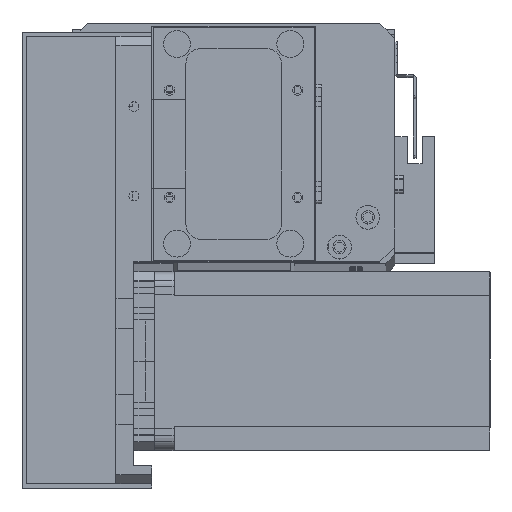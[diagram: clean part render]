
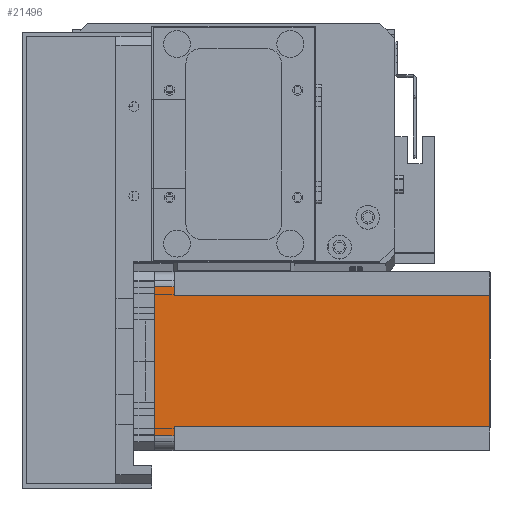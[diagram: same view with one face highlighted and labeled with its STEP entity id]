
A CAD part, top view. The second image highlights one B-rep face of the part: STEP entity #21496.
In plain terms, the highlighted planar face has unit normal (0, 0, 1) as drawn and (0, 1, 0) by its records, which use the part's own axes.
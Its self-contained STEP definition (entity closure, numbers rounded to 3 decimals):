
#429 = CARTESIAN_POINT ( 'NONE',  ( 0., 60., 0. ) ) ;
#657 = VERTEX_POINT ( 'NONE', #27816 ) ;
#697 = EDGE_CURVE ( 'NONE', #657, #31399, #29039, .T. ) ;
#1153 = EDGE_LOOP ( 'NONE', ( #2648, #1797, #27121, #4255, #14276, #13789, #11095, #31699 ) ) ;
#1797 = ORIENTED_EDGE ( 'NONE', *, *, #20798, .T. ) ;
#1852 = VECTOR ( 'NONE', #28071, 1000. ) ;
#2479 = CARTESIAN_POINT ( 'NONE',  ( 8., 60., -6.5 ) ) ;
#2630 = CARTESIAN_POINT ( 'NONE',  ( 52., 60., -6.5 ) ) ;
#2638 = VERTEX_POINT ( 'NONE', #28975 ) ;
#2648 = ORIENTED_EDGE ( 'NONE', *, *, #12599, .F. ) ;
#2674 = DIRECTION ( 'NONE',  ( 0., 0., 1. ) ) ;
#3869 = VECTOR ( 'NONE', #25378, 1000. ) ;
#4255 = ORIENTED_EDGE ( 'NONE', *, *, #8527, .F. ) ;
#4426 = DIRECTION ( 'NONE',  ( 0., 0., 1. ) ) ;
#6305 = LINE ( 'NONE', #429, #12208 ) ;
#7269 = AXIS2_PLACEMENT_3D ( 'NONE', #9461, #27264, #11977 ) ;
#7737 = CARTESIAN_POINT ( 'NONE',  ( 8., 60., -112.5 ) ) ;
#7777 = CARTESIAN_POINT ( 'NONE',  ( 52., 60., -112.5 ) ) ;
#8527 = EDGE_CURVE ( 'NONE', #657, #2638, #24083, .T. ) ;
#8674 = CARTESIAN_POINT ( 'NONE',  ( 55., 60., 0. ) ) ;
#9461 = CARTESIAN_POINT ( 'NONE',  ( 0., 60., -112.5 ) ) ;
#10289 = DIRECTION ( 'NONE',  ( 0., 0., -1. ) ) ;
#11095 = ORIENTED_EDGE ( 'NONE', *, *, #29438, .T. ) ;
#11819 = DIRECTION ( 'NONE',  ( 0., 0., -1. ) ) ;
#11977 = DIRECTION ( 'NONE',  ( 0., 0., 1. ) ) ;
#12208 = VECTOR ( 'NONE', #16329, 1000. ) ;
#12337 = LINE ( 'NONE', #32330, #25127 ) ;
#12599 = EDGE_CURVE ( 'NONE', #16357, #21157, #6305, .T. ) ;
#13789 = ORIENTED_EDGE ( 'NONE', *, *, #22938, .F. ) ;
#14276 = ORIENTED_EDGE ( 'NONE', *, *, #697, .T. ) ;
#14595 = EDGE_CURVE ( 'NONE', #2638, #24525, #15324, .T. ) ;
#15324 = LINE ( 'NONE', #2630, #1852 ) ;
#15477 = VECTOR ( 'NONE', #20136, 1000. ) ;
#15644 = CARTESIAN_POINT ( 'NONE',  ( 5., 60., -6.5 ) ) ;
#16329 = DIRECTION ( 'NONE',  ( -1., 0., 0. ) ) ;
#16357 = VERTEX_POINT ( 'NONE', #8674 ) ;
#20136 = DIRECTION ( 'NONE',  ( -1., 0., 0. ) ) ;
#20209 = VECTOR ( 'NONE', #10289, 1000. ) ;
#20334 = EDGE_CURVE ( 'NONE', #29539, #21157, #12337, .T. ) ;
#20798 = EDGE_CURVE ( 'NONE', #16357, #24525, #27133, .T. ) ;
#21157 = VERTEX_POINT ( 'NONE', #25618 ) ;
#21496 = ADVANCED_FACE ( 'NONE', ( #28247 ), #29706, .T. ) ;
#22938 = EDGE_CURVE ( 'NONE', #29763, #31399, #23813, .T. ) ;
#23813 = LINE ( 'NONE', #7737, #20209 ) ;
#24083 = LINE ( 'NONE', #7777, #24860 ) ;
#24166 = LINE ( 'NONE', #2479, #3869 ) ;
#24252 = CARTESIAN_POINT ( 'NONE',  ( 8., 60., -6.5 ) ) ;
#24525 = VERTEX_POINT ( 'NONE', #27322 ) ;
#24860 = VECTOR ( 'NONE', #2674, 1000. ) ;
#25127 = VECTOR ( 'NONE', #4426, 1000. ) ;
#25378 = DIRECTION ( 'NONE',  ( -1., 0., 0. ) ) ;
#25618 = CARTESIAN_POINT ( 'NONE',  ( 5., 60., 0. ) ) ;
#26342 = VECTOR ( 'NONE', #11819, 1000. ) ;
#26360 = CARTESIAN_POINT ( 'NONE',  ( 8., 60., -112.5 ) ) ;
#27121 = ORIENTED_EDGE ( 'NONE', *, *, #14595, .F. ) ;
#27133 = LINE ( 'NONE', #32096, #26342 ) ;
#27264 = DIRECTION ( 'NONE',  ( 0., 1., 0. ) ) ;
#27322 = CARTESIAN_POINT ( 'NONE',  ( 55., 60., -6.5 ) ) ;
#27816 = CARTESIAN_POINT ( 'NONE',  ( 52., 60., -112.5 ) ) ;
#28071 = DIRECTION ( 'NONE',  ( 1., 0., 0. ) ) ;
#28247 = FACE_OUTER_BOUND ( 'NONE', #1153, .T. ) ;
#28975 = CARTESIAN_POINT ( 'NONE',  ( 52., 60., -6.5 ) ) ;
#29039 = LINE ( 'NONE', #30376, #15477 ) ;
#29438 = EDGE_CURVE ( 'NONE', #29763, #29539, #24166, .T. ) ;
#29539 = VERTEX_POINT ( 'NONE', #15644 ) ;
#29706 = PLANE ( 'NONE',  #7269 ) ;
#29763 = VERTEX_POINT ( 'NONE', #24252 ) ;
#30376 = CARTESIAN_POINT ( 'NONE',  ( 0., 60., -112.5 ) ) ;
#31399 = VERTEX_POINT ( 'NONE', #26360 ) ;
#31699 = ORIENTED_EDGE ( 'NONE', *, *, #20334, .T. ) ;
#32096 = CARTESIAN_POINT ( 'NONE',  ( 55., 60., -112.5 ) ) ;
#32330 = CARTESIAN_POINT ( 'NONE',  ( 5., 60., -112.5 ) ) ;
